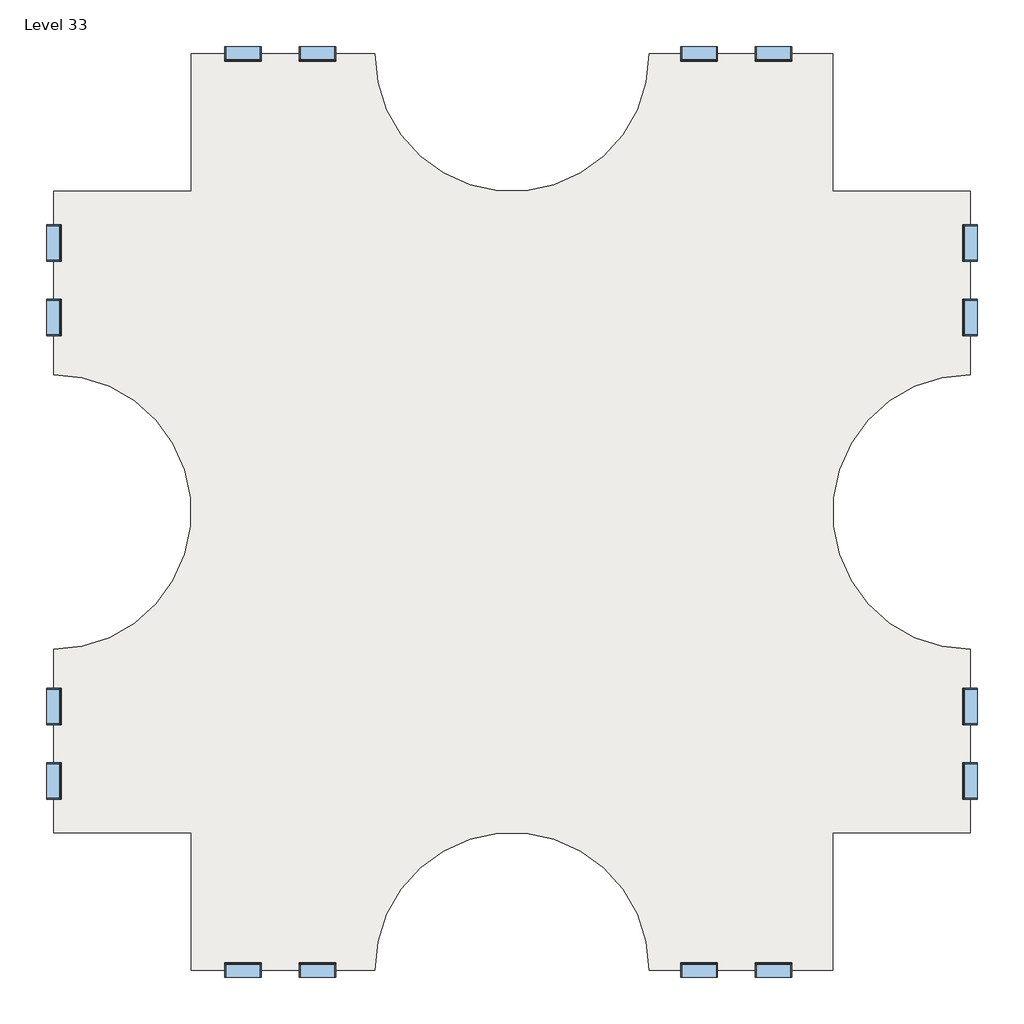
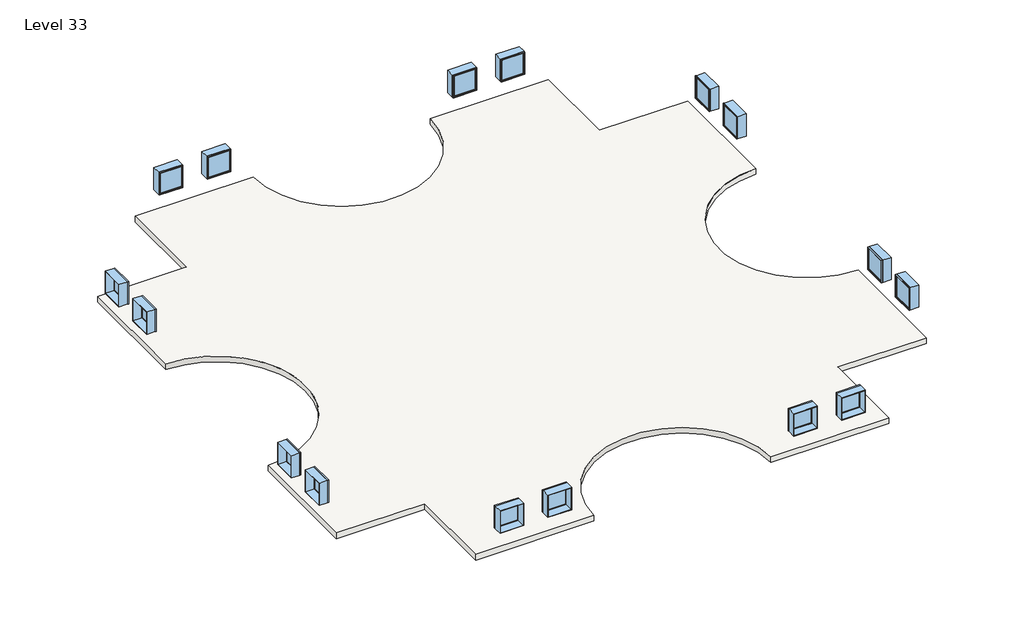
# One storey: 16 windows, 3 slabs.
"""IFC4 building model written with IfcOpenShell, lengths in millimetres."""

from ifc_helpers import new_model, si_unit, point, frame, frame_2d, origin, place, context, project, spatial, polyline, circle_curve, trimmed, segment, composite_curve, outline, extrude, transform, mapped, element, save
from components import window_d0035ecf, window_d434eb62

model = new_model("IFC4")

# Units and contexts
model_context = context("Model", 3, world=origin())
ifc_project = project(units=[si_unit("LENGTHUNIT", "METRE", prefix="MILLI")], contexts=[model_context])

# Site, building, storey
site = spatial("IfcSite", under=ifc_project)
building = spatial("IfcBuilding", under=site)
storey = spatial("IfcBuildingStorey", under=building, Name="Level 33", Elevation=97536.0)

# Slabs
placement = place(None, origin())
element("IfcSlab", 1, ObjectType="Generic - 12\"", at=placement, inside=storey, context=model_context, shape_type="SweptSolid", body=[
    extrude(outline(composite_curve([segment(polyline([(-7150.3629456, 4479.6634547), (-7150.3629456, 9051.6634547), (-1054.3629456, 9051.6634547)]), True, "CONTINUOUS"), segment(trimmed(circle_curve(frame_2d((3517.6370544, 9051.6634547)), 4572.0), [point((-1054.3629456, 9051.6634547))], [point((8089.6370544, 9051.6634547))], True, "CARTESIAN"), True, "CONTINUOUS"), segment(polyline([(8089.6370544, 9051.6634547), (14185.6370544, 9051.6634547), (14185.6370544, 4479.6634547), (18757.6370544, 4479.6634547), (18757.6370544, -1616.3365453)]), True, "CONTINUOUS"), segment(trimmed(circle_curve(frame_2d((18757.6370544, -6188.3365453)), 4572.0), [point((18757.6370544, -1616.3365453))], [point((18757.6370544, -10760.3365453))], True, "CARTESIAN"), True, "CONTINUOUS"), segment(polyline([(18757.6370544, -10760.3365453), (18757.6370544, -16856.3365453), (14185.6370544, -16856.3365453), (14185.6370544, -21428.3365453), (8089.6370544, -21428.3365453)]), True, "CONTINUOUS"), segment(trimmed(circle_curve(frame_2d((3517.6370544, -21428.3365453)), 4572.0), [point((8089.6370544, -21428.3365453))], [point((-1054.3629456, -21428.3365453))], True, "CARTESIAN"), True, "CONTINUOUS"), segment(polyline([(-1054.3629456, -21428.3365453), (-7150.3629456, -21428.3365453), (-7150.3629456, -16856.3365453), (-11722.3629456, -16856.3365453), (-11722.3629456, -10760.3365453)]), True, "CONTINUOUS"), segment(trimmed(circle_curve(frame_2d((-11722.3629456, -6188.3365453)), 4572.0), [point((-11722.3629456, -10760.3365453))], [point((-11722.3629456, -1616.3365453))], True, "CARTESIAN"), True, "CONTINUOUS"), segment(polyline([(-11722.3629456, -1616.3365453), (-11722.3629456, 4479.6634547), (-7150.3629456, 4479.6634547)]), True, "CONTINUOUS")], self_intersect=False)), frame((0.0, 0.0, 97231.2), z_axis=(0.0, 0.0, 1.0), x_axis=(1.0, 0.0, 0.0)), (0.0, 0.0, 1.0), 304.8),
])
element("IfcSlab", 2, ObjectType="Generic - 12\"", at=placement, inside=storey, context=model_context, shape_type="SweptSolid", body=[
    extrude(outline(composite_curve([segment(polyline([(-7150.3629456, 4479.6634547), (-7150.3629456, 9051.6634547), (-1054.3629456, 9051.6634547)]), True, "CONTINUOUS"), segment(trimmed(circle_curve(frame_2d((3517.6370544, 9051.6634547)), 4572.0), [point((-1054.3629456, 9051.6634547))], [point((8089.6370544, 9051.6634547))], True, "CARTESIAN"), True, "CONTINUOUS"), segment(polyline([(8089.6370544, 9051.6634547), (14185.6370544, 9051.6634547), (14185.6370544, 4479.6634547), (18757.6370544, 4479.6634547), (18757.6370544, -1616.3365453)]), True, "CONTINUOUS"), segment(trimmed(circle_curve(frame_2d((18757.6370544, -6188.3365453)), 4572.0), [point((18757.6370544, -1616.3365453))], [point((18757.6370544, -10760.3365453))], True, "CARTESIAN"), True, "CONTINUOUS"), segment(polyline([(18757.6370544, -10760.3365453), (18757.6370544, -16856.3365453), (14185.6370544, -16856.3365453), (14185.6370544, -21428.3365453), (8089.6370544, -21428.3365453)]), True, "CONTINUOUS"), segment(trimmed(circle_curve(frame_2d((3517.6370544, -21428.3365453)), 4572.0), [point((8089.6370544, -21428.3365453))], [point((-1054.3629456, -21428.3365453))], True, "CARTESIAN"), True, "CONTINUOUS"), segment(polyline([(-1054.3629456, -21428.3365453), (-7150.3629456, -21428.3365453), (-7150.3629456, -16856.3365453), (-11722.3629456, -16856.3365453), (-11722.3629456, -10760.3365453)]), True, "CONTINUOUS"), segment(trimmed(circle_curve(frame_2d((-11722.3629456, -6188.3365453)), 4572.0), [point((-11722.3629456, -10760.3365453))], [point((-11722.3629456, -1616.3365453))], True, "CARTESIAN"), True, "CONTINUOUS"), segment(polyline([(-11722.3629456, -1616.3365453), (-11722.3629456, 4479.6634547), (-7150.3629456, 4479.6634547)]), True, "CONTINUOUS")], self_intersect=False)), frame((0.0, 0.0, 97231.2), z_axis=(0.0, 0.0, 1.0), x_axis=(1.0, 0.0, 0.0)), (0.0, 0.0, 1.0), 304.8),
])
element("IfcSlab", 3, ObjectType="Generic - 12\"", at=placement, inside=storey, context=model_context, shape_type="SweptSolid", body=[
    extrude(outline(composite_curve([segment(polyline([(-7150.3629456, 4479.6634547), (-7150.3629456, 9051.6634547), (-1054.3629456, 9051.6634547)]), True, "CONTINUOUS"), segment(trimmed(circle_curve(frame_2d((3517.6370544, 9051.6634547)), 4572.0), [point((-1054.3629456, 9051.6634547))], [point((8089.6370544, 9051.6634547))], True, "CARTESIAN"), True, "CONTINUOUS"), segment(polyline([(8089.6370544, 9051.6634547), (14185.6370544, 9051.6634547), (14185.6370544, 4479.6634547), (18757.6370544, 4479.6634547), (18757.6370544, -1616.3365453)]), True, "CONTINUOUS"), segment(trimmed(circle_curve(frame_2d((18757.6370544, -6188.3365453)), 4572.0), [point((18757.6370544, -1616.3365453))], [point((18757.6370544, -10760.3365453))], True, "CARTESIAN"), True, "CONTINUOUS"), segment(polyline([(18757.6370544, -10760.3365453), (18757.6370544, -16856.3365453), (14185.6370544, -16856.3365453), (14185.6370544, -21428.3365453), (8089.6370544, -21428.3365453)]), True, "CONTINUOUS"), segment(trimmed(circle_curve(frame_2d((3517.6370544, -21428.3365453)), 4572.0), [point((8089.6370544, -21428.3365453))], [point((-1054.3629456, -21428.3365453))], True, "CARTESIAN"), True, "CONTINUOUS"), segment(polyline([(-1054.3629456, -21428.3365453), (-7150.3629456, -21428.3365453), (-7150.3629456, -16856.3365453), (-11722.3629456, -16856.3365453), (-11722.3629456, -10760.3365453)]), True, "CONTINUOUS"), segment(trimmed(circle_curve(frame_2d((-11722.3629456, -6188.3365453)), 4572.0), [point((-11722.3629456, -10760.3365453))], [point((-11722.3629456, -1616.3365453))], True, "CARTESIAN"), True, "CONTINUOUS"), segment(polyline([(-11722.3629456, -1616.3365453), (-11722.3629456, 4479.6634547), (-7150.3629456, 4479.6634547)]), True, "CONTINUOUS")], self_intersect=False)), frame((0.0, 0.0, 97231.2), z_axis=(0.0, 0.0, 1.0), x_axis=(1.0, 0.0, 0.0)), (0.0, 0.0, 1.0), 304.8),
])

# Windows
window_shape = window_d0035ecf(model_context)
element("IfcWindow", 4, ObjectType="Fixed : 48\" x 48\"", at=placement, inside=storey, context=model_context, shape_type="MappedRepresentation", body=[
    mapped(window_shape, transform((-11719.1879456, 247.3884547, 97536.0), x_axis=(0.0, -1.0, 0.0), y_axis=(1.0, 0.0, 0.0), z_axis=(0.0, 0.0, 1.0))),
])
element("IfcWindow", 5, ObjectType="Fixed : 48\" x 48\"", at=placement, inside=storey, context=model_context, shape_type="MappedRepresentation", body=[
    mapped(window_shape, transform((-5469.1993281, 9048.4884547, 97536.0), x_axis=(-1.0, 0.0, 0.0), y_axis=(0.0, -1.0, 0.0), z_axis=(0.0, 0.0, 1.0))),
])
element("IfcWindow", 6, ObjectType="Fixed : 48\" x 48\"", at=placement, inside=storey, context=model_context, shape_type="MappedRepresentation", body=[
    mapped(window_shape, transform((-11719.1879456, -15175.1729277, 97536.0), x_axis=(0.0, -1.0, 0.0), y_axis=(1.0, 0.0, 0.0), z_axis=(0.0, 0.0, 1.0))),
])
element("IfcWindow", 7, ObjectType="Fixed : 48\" x 48\"", at=placement, inside=storey, context=model_context, shape_type="MappedRepresentation", body=[
    mapped(window_shape, transform((-2918.0879456, -21425.1615453, 97536.0), x_axis=(1.0, 0.0, 0.0), y_axis=(0.0, 1.0, 0.0), z_axis=(0.0, 0.0, 1.0))),
])
element("IfcWindow", 8, ObjectType="Fixed : 48\" x 48\"", at=placement, inside=storey, context=model_context, shape_type="MappedRepresentation", body=[
    mapped(window_shape, transform((18754.4620544, 2798.4998372, 97536.0), x_axis=(0.0, 1.0, 0.0), y_axis=(-1.0, 0.0, 0.0), z_axis=(0.0, 0.0, 1.0))),
])
element("IfcWindow", 9, ObjectType="Fixed : 48\" x 48\"", at=placement, inside=storey, context=model_context, shape_type="MappedRepresentation", body=[
    mapped(window_shape, transform((9705.7120544, 9048.4884547, 97536.0), x_axis=(-1.0, 0.0, 0.0), y_axis=(0.0, -1.0, 0.0), z_axis=(0.0, 0.0, 1.0))),
])
element("IfcWindow", 10, ObjectType="Fixed : 48\" x 48\"", at=placement, inside=storey, context=model_context, shape_type="MappedRepresentation", body=[
    mapped(window_shape, transform((18754.4620544, -12624.0615453, 97536.0), x_axis=(0.0, 1.0, 0.0), y_axis=(-1.0, 0.0, 0.0), z_axis=(0.0, 0.0, 1.0))),
])
element("IfcWindow", 11, ObjectType="Fixed : 48\" x 48\"", at=placement, inside=storey, context=model_context, shape_type="MappedRepresentation", body=[
    mapped(window_shape, transform((12256.8234368, -21425.1615453, 97536.0), x_axis=(1.0, 0.0, 0.0), y_axis=(0.0, 1.0, 0.0), z_axis=(0.0, 0.0, 1.0))),
])
window_2_shape = window_d434eb62(model_context)
element("IfcWindow", 12, ObjectType="Fixed : 48\" x 48\"", at=placement, inside=storey, context=model_context, shape_type="MappedRepresentation", body=[
    mapped(window_2_shape, transform((-11719.1879456, 2798.4998372, 97536.0), x_axis=(0.0, 1.0, 0.0), y_axis=(-1.0, 0.0, 0.0), z_axis=(0.0, 0.0, 1.0))),
])
element("IfcWindow", 13, ObjectType="Fixed : 48\" x 48\"", at=placement, inside=storey, context=model_context, shape_type="MappedRepresentation", body=[
    mapped(window_2_shape, transform((-2918.0879456, 9048.4884547, 97536.0), x_axis=(1.0, 0.0, 0.0), y_axis=(0.0, 1.0, 0.0), z_axis=(0.0, 0.0, 1.0))),
])
element("IfcWindow", 14, ObjectType="Fixed : 48\" x 48\"", at=placement, inside=storey, context=model_context, shape_type="MappedRepresentation", body=[
    mapped(window_2_shape, transform((-11719.1879456, -12624.0615453, 97536.0), x_axis=(0.0, 1.0, 0.0), y_axis=(-1.0, 0.0, 0.0), z_axis=(0.0, 0.0, 1.0))),
])
element("IfcWindow", 15, ObjectType="Fixed : 48\" x 48\"", at=placement, inside=storey, context=model_context, shape_type="MappedRepresentation", body=[
    mapped(window_2_shape, transform((-5469.1993281, -21425.1615453, 97536.0), x_axis=(-1.0, 0.0, 0.0), y_axis=(0.0, -1.0, 0.0), z_axis=(0.0, 0.0, 1.0))),
])
element("IfcWindow", 16, ObjectType="Fixed : 48\" x 48\"", at=placement, inside=storey, context=model_context, shape_type="MappedRepresentation", body=[
    mapped(window_2_shape, transform((18754.4620544, 247.3884547, 97536.0), x_axis=(0.0, -1.0, 0.0), y_axis=(1.0, 0.0, 0.0), z_axis=(0.0, 0.0, 1.0))),
])
element("IfcWindow", 17, ObjectType="Fixed : 48\" x 48\"", at=placement, inside=storey, context=model_context, shape_type="MappedRepresentation", body=[
    mapped(window_2_shape, transform((12256.8234368, 9048.4884547, 97536.0), x_axis=(1.0, 0.0, 0.0), y_axis=(0.0, 1.0, 0.0), z_axis=(0.0, 0.0, 1.0))),
])
element("IfcWindow", 18, ObjectType="Fixed : 48\" x 48\"", at=placement, inside=storey, context=model_context, shape_type="MappedRepresentation", body=[
    mapped(window_2_shape, transform((18754.4620544, -15175.1729277, 97536.0), x_axis=(0.0, -1.0, 0.0), y_axis=(1.0, 0.0, 0.0), z_axis=(0.0, 0.0, 1.0))),
])
element("IfcWindow", 19, ObjectType="Fixed : 48\" x 48\"", at=placement, inside=storey, context=model_context, shape_type="MappedRepresentation", body=[
    mapped(window_2_shape, transform((9705.7120544, -21425.1615453, 97536.0), x_axis=(-1.0, 0.0, 0.0), y_axis=(0.0, -1.0, 0.0), z_axis=(0.0, 0.0, 1.0))),
])

save(model, "model.ifc")
